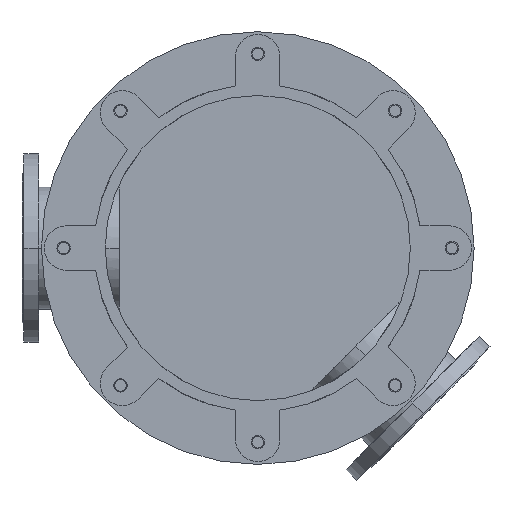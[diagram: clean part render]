
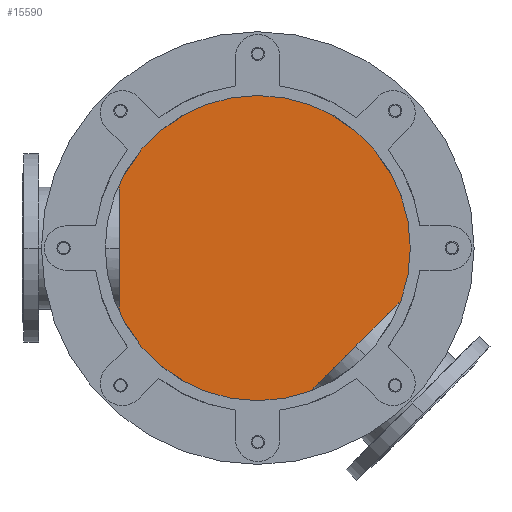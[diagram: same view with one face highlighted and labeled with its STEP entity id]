
A CAD part, front view. The second image highlights one B-rep face of the part: STEP entity #15590.
In plain terms, the highlighted planar face has unit normal (0, -1, 0).
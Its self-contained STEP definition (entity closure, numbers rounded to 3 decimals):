
#3897=CARTESIAN_POINT('',(0.,875.,0.));
#3898=DIRECTION('',(0.,-1.,0.));
#3899=DIRECTION('',(0.,0.,-1.));
#3900=AXIS2_PLACEMENT_3D('',#3897,#3898,#3899);
#4047=CARTESIAN_POINT('',(0.,875.,0.));
#4048=DIRECTION('',(0.,-1.,0.));
#4049=DIRECTION('',(0.,0.,1.));
#4050=AXIS2_PLACEMENT_3D('',#4047,#4048,#4049);
#9072=CARTESIAN_POINT('',(0.,875.,290.));
#9073=CARTESIAN_POINT('',(0.,875.,-290.));
#9074=VERTEX_POINT('',#9072);
#9075=VERTEX_POINT('',#9073);
#15581=CARTESIAN_POINT('',(0.,875.,0.));
#15582=DIRECTION('',(0.,1.,0.));
#15583=DIRECTION('',(0.,0.,-1.));
#15584=AXIS2_PLACEMENT_3D('',#15581,#15582,#15583);
#15585=PLANE('',#15584);
#15586=ORIENTED_EDGE('',*,*,#15567,.F.);
#15587=ORIENTED_EDGE('',*,*,#15466,.F.);
#15588=EDGE_LOOP('',(#15586,#15587));
#15589=FACE_OUTER_BOUND('',#15588,.F.);
#15590=ADVANCED_FACE('',(#15589),#15585,.F.);
#3901=CIRCLE('',#3900,290.);
#4051=CIRCLE('',#4050,290.);
#15466=EDGE_CURVE('',#9075,#9074,#3901,.T.);
#15567=EDGE_CURVE('',#9074,#9075,#4051,.T.);
